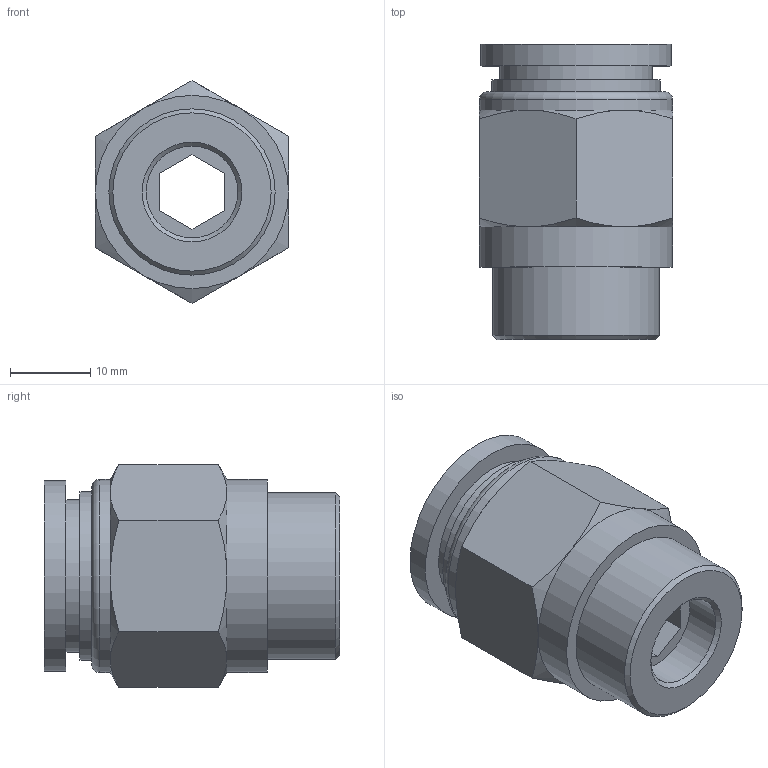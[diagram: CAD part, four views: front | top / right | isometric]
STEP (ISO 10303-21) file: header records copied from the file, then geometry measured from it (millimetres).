
FILE_DESCRIPTION(/* description */ (''),/* implementation_level */ '2;1');
FILE_NAME(/* name */ 'S:\UTecnico\ArchivioUT\Speciali Clienti\Speciali KONFIT\DISEGNI 3D\RP\RP 51\RP511216.stp',/* time_stamp */ '2015-07-15T10:38:03+02:00',/* author */ ('UT5'),/* organization */ (''),/* preprocessor_version */ 'ST-DEVELOPER v15.2',/* originating_system */ 'Autodesk Inventor 2014',/* authorisation */ '');
FILE_SCHEMA (('AUTOMOTIVE_DESIGN { 1 0 10303 214 3 1 1 }'));
Length unit declared in the file: millimetre
Products named in the file (1): RP511216
Bounding box: 24 x 36.67 x 27.71 mm (x, y, z)
Volume: 11290.5 mm3; surface area: 5238.9 mm2
Topology: 1 solids, 1 shells, 43 faces, 90 edges, 55 vertices
Faces by surface type: plane 20, cone 14, cylinder 8, torus 1
Full cylindrical faces by diameter (mm): 11.4 x1, 14 x1, 19 x1, 20.671 x1, 21 x1, 23.7 x1, 24 x2
Entity records: 1081 total; most frequent: CARTESIAN_POINT 222, DIRECTION 170, ORIENTED_EDGE 154, EDGE_CURVE 77, AXIS2_PLACEMENT_3D 73, EDGE_LOOP 62, VERTEX_POINT 53, ADVANCED_FACE 43
